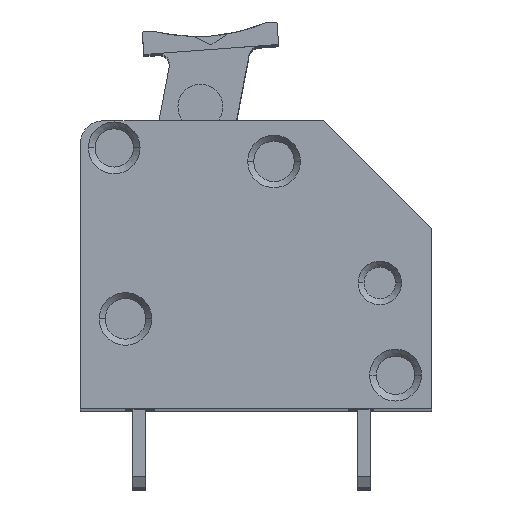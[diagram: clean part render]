
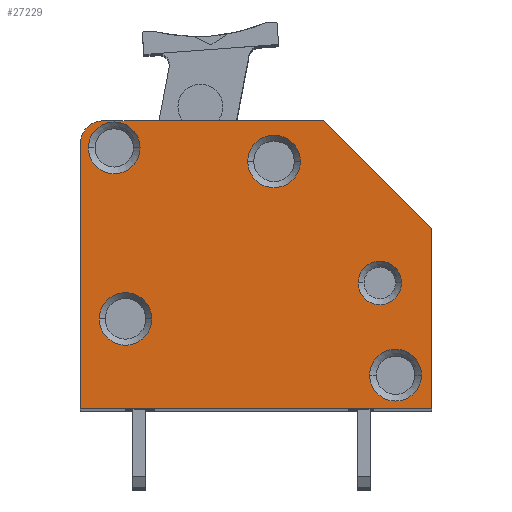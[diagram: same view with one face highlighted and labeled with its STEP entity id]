
A CAD part, top view. The second image highlights one B-rep face of the part: STEP entity #27229.
In plain terms, the highlighted planar face has unit normal (0, 0, 1).
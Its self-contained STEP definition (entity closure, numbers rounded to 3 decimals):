
#11732 = DIRECTION ( 'NONE',  ( 1., 0., 0. ) ) ;
#11733 = DIRECTION ( 'NONE',  ( 0., 0., -1. ) ) ;
#11734 = CARTESIAN_POINT ( 'NONE',  ( -6.01, -0.923, 0. ) ) ;
#11735 = AXIS2_PLACEMENT_3D ( 'NONE', #11734, #11733, #11732 ) ;
#11736 = CIRCLE ( 'NONE', #11735, 1.168 ) ;
#11798 = DIRECTION ( 'NONE',  ( 1., 0., 0. ) ) ;
#11799 = DIRECTION ( 'NONE',  ( 0., 0., -1. ) ) ;
#11800 = CARTESIAN_POINT ( 'NONE',  ( 0.59, 6.077, 0. ) ) ;
#11801 = AXIS2_PLACEMENT_3D ( 'NONE', #11800, #11799, #11798 ) ;
#11802 = CIRCLE ( 'NONE', #11801, 1.168 ) ;
#11853 = DIRECTION ( 'NONE',  ( 1., 0., 0. ) ) ;
#11854 = DIRECTION ( 'NONE',  ( 0., 0., -1. ) ) ;
#11855 = CARTESIAN_POINT ( 'NONE',  ( 5.29, 0.677, 0. ) ) ;
#11856 = AXIS2_PLACEMENT_3D ( 'NONE', #11855, #11854, #11853 ) ;
#11857 = CIRCLE ( 'NONE', #11856, 0.968 ) ;
#11870 = DIRECTION ( 'NONE',  ( 1., 0., 0. ) ) ;
#11871 = DIRECTION ( 'NONE',  ( 0., 0., -1. ) ) ;
#11872 = AXIS2_PLACEMENT_3D ( 'NONE', #11878, #11871, #11870 ) ;
#11873 = CIRCLE ( 'NONE', #11872, 1.15 ) ;
#11878 = CARTESIAN_POINT ( 'NONE',  ( 5.99, -3.423, 0. ) ) ;
#11897 = DIRECTION ( 'NONE',  ( 1., 0., 0. ) ) ;
#11898 = DIRECTION ( 'NONE',  ( 0., 0., -1. ) ) ;
#11899 = CARTESIAN_POINT ( 'NONE',  ( -6.51, 6.677, 0. ) ) ;
#11900 = AXIS2_PLACEMENT_3D ( 'NONE', #11899, #11898, #11897 ) ;
#11901 = CIRCLE ( 'NONE', #11900, 1.15 ) ;
#14247 = CARTESIAN_POINT ( 'NONE',  ( -8.01, 6.877, 0. ) ) ;
#14248 = CARTESIAN_POINT ( 'NONE',  ( -7.01, 7.877, 0. ) ) ;
#14249 = DIRECTION ( 'NONE',  ( 1., 0., 0. ) ) ;
#14250 = DIRECTION ( 'NONE',  ( 0., 0., 1. ) ) ;
#14251 = AXIS2_PLACEMENT_3D ( 'NONE', #14257, #14250, #14249 ) ;
#14252 = CIRCLE ( 'NONE', #14251, 1. ) ;
#14257 = CARTESIAN_POINT ( 'NONE',  ( -7.01, 6.877, 0. ) ) ;
#14929 = DIRECTION ( 'NONE',  ( 1., 0., 0. ) ) ;
#14930 = DIRECTION ( 'NONE',  ( 0., 0., 1. ) ) ;
#14931 = CARTESIAN_POINT ( 'NONE',  ( -8.01, -4.923, 0. ) ) ;
#14932 = AXIS2_PLACEMENT_3D ( 'NONE', #14931, #14930, #14929 ) ;
#14933 = PLANE ( 'NONE',  #14932 ) ;
#14934 = FACE_OUTER_BOUND ( 'NONE', #27306, .T. ) ;
#14935 = FACE_BOUND ( 'NONE', #27304, .T. ) ;
#14936 = FACE_BOUND ( 'NONE', #27301, .T. ) ;
#14937 = FACE_BOUND ( 'NONE', #27298, .T. ) ;
#14938 = FACE_BOUND ( 'NONE', #27232, .T. ) ;
#14939 = FACE_BOUND ( 'NONE', #27230, .T. ) ;
#15023 = DIRECTION ( 'NONE',  ( -1., 0., 0. ) ) ;
#15024 = VECTOR ( 'NONE', #15023, 1000. ) ;
#15025 = CARTESIAN_POINT ( 'NONE',  ( -2.11, 7.877, 0. ) ) ;
#15026 = LINE ( 'NONE', #15025, #15024 ) ;
#15027 = CARTESIAN_POINT ( 'NONE',  ( 2.79, 7.877, 0. ) ) ;
#15028 = DIRECTION ( 'NONE',  ( -0.707, 0.707, 0. ) ) ;
#15029 = VECTOR ( 'NONE', #15028, 1000. ) ;
#15030 = CARTESIAN_POINT ( 'NONE',  ( 5.19, 5.477, 0. ) ) ;
#15031 = LINE ( 'NONE', #15030, #15029 ) ;
#15032 = CARTESIAN_POINT ( 'NONE',  ( 7.59, 3.077, 0. ) ) ;
#15033 = DIRECTION ( 'NONE',  ( 0., 1., 0. ) ) ;
#15034 = VECTOR ( 'NONE', #15033, 1000. ) ;
#15035 = CARTESIAN_POINT ( 'NONE',  ( 7.59, -0.923, 0. ) ) ;
#15036 = LINE ( 'NONE', #15035, #15034 ) ;
#15037 = CARTESIAN_POINT ( 'NONE',  ( 7.59, -4.923, 0. ) ) ;
#15038 = DIRECTION ( 'NONE',  ( 1., 0., 0. ) ) ;
#15039 = VECTOR ( 'NONE', #15038, 1000. ) ;
#15040 = CARTESIAN_POINT ( 'NONE',  ( -8.01, -4.923, 0. ) ) ;
#15041 = LINE ( 'NONE', #15040, #15039 ) ;
#15042 = CARTESIAN_POINT ( 'NONE',  ( -8.01, -4.923, 0. ) ) ;
#15043 = DIRECTION ( 'NONE',  ( 0., -1., 0. ) ) ;
#15044 = VECTOR ( 'NONE', #15043, 1000. ) ;
#15045 = CARTESIAN_POINT ( 'NONE',  ( -8.01, 0.977, 0. ) ) ;
#15046 = LINE ( 'NONE', #15045, #15044 ) ;
#15721 = CARTESIAN_POINT ( 'NONE',  ( 1.759, 6.077, 0. ) ) ;
#15722 = DIRECTION ( 'NONE',  ( 1., 0., 0. ) ) ;
#15723 = DIRECTION ( 'NONE',  ( 0., 0., -1. ) ) ;
#15724 = CARTESIAN_POINT ( 'NONE',  ( 0.59, 6.077, 0. ) ) ;
#15725 = AXIS2_PLACEMENT_3D ( 'NONE', #15724, #15723, #15722 ) ;
#15726 = CIRCLE ( 'NONE', #15725, 1.168 ) ;
#15727 = DIRECTION ( 'NONE',  ( 1., 0., 0. ) ) ;
#15728 = DIRECTION ( 'NONE',  ( 0., 0., -1. ) ) ;
#15729 = CARTESIAN_POINT ( 'NONE',  ( 5.99, -3.423, 0. ) ) ;
#15730 = AXIS2_PLACEMENT_3D ( 'NONE', #15729, #15728, #15727 ) ;
#15731 = CIRCLE ( 'NONE', #15730, 1.15 ) ;
#15732 = CARTESIAN_POINT ( 'NONE',  ( 4.84, -3.423, 0. ) ) ;
#15734 = CARTESIAN_POINT ( 'NONE',  ( -0.578, 6.077, 0. ) ) ;
#15761 = CARTESIAN_POINT ( 'NONE',  ( 6.258, 0.677, 0. ) ) ;
#15762 = CARTESIAN_POINT ( 'NONE',  ( 4.323, 0.677, 0. ) ) ;
#15809 = CARTESIAN_POINT ( 'NONE',  ( 7.14, -3.423, 0. ) ) ;
#15850 = DIRECTION ( 'NONE',  ( 1., 0., 0. ) ) ;
#15851 = DIRECTION ( 'NONE',  ( 0., 0., -1. ) ) ;
#15852 = CARTESIAN_POINT ( 'NONE',  ( 5.29, 0.677, 0. ) ) ;
#15853 = AXIS2_PLACEMENT_3D ( 'NONE', #15852, #15851, #15850 ) ;
#15854 = CIRCLE ( 'NONE', #15853, 0.968 ) ;
#17433 = EDGE_CURVE ( 'NONE', #17556, #18848, #29064, .T. ) ;
#17556 = VERTEX_POINT ( 'NONE', #29312 ) ;
#17623 = VERTEX_POINT ( 'NONE', #29457 ) ;
#17625 = VERTEX_POINT ( 'NONE', #29455 ) ;
#17629 = EDGE_CURVE ( 'NONE', #17623, #17625, #29450, .T. ) ;
#18848 = VERTEX_POINT ( 'NONE', #31573 ) ;
#25231 = EDGE_CURVE ( 'NONE', #17625, #17623, #11736, .T. ) ;
#25277 = EDGE_CURVE ( 'NONE', #28004, #27978, #11802, .T. ) ;
#25295 = EDGE_CURVE ( 'NONE', #27974, #28036, #11873, .T. ) ;
#25304 = EDGE_CURVE ( 'NONE', #27989, #27991, #11857, .T. ) ;
#25310 = EDGE_CURVE ( 'NONE', #18848, #17556, #11901, .T. ) ;
#26712 = EDGE_CURVE ( 'NONE', #26713, #26714, #14252, .T. ) ;
#26713 = VERTEX_POINT ( 'NONE', #14248 ) ;
#26714 = VERTEX_POINT ( 'NONE', #14247 ) ;
#27229 = ADVANCED_FACE ( 'NONE', ( #14939, #14938, #14937, #14936, #14935, #14934 ), #14933, .T. ) ;
#27230 = EDGE_LOOP ( 'NONE', ( #27231, #27295 ) ) ;
#27231 = ORIENTED_EDGE ( 'NONE', *, *, #27977, .T. ) ;
#27232 = EDGE_LOOP ( 'NONE', ( #27296, #27297 ) ) ;
#27280 = ORIENTED_EDGE ( 'NONE', *, *, #25310, .T. ) ;
#27281 = ORIENTED_EDGE ( 'NONE', *, *, #27282, .T. ) ;
#27282 = EDGE_CURVE ( 'NONE', #26714, #27283, #15046, .T. ) ;
#27283 = VERTEX_POINT ( 'NONE', #15042 ) ;
#27284 = ORIENTED_EDGE ( 'NONE', *, *, #27285, .T. ) ;
#27285 = EDGE_CURVE ( 'NONE', #27283, #27286, #15041, .T. ) ;
#27286 = VERTEX_POINT ( 'NONE', #15037 ) ;
#27287 = ORIENTED_EDGE ( 'NONE', *, *, #27288, .T. ) ;
#27288 = EDGE_CURVE ( 'NONE', #27286, #27289, #15036, .T. ) ;
#27289 = VERTEX_POINT ( 'NONE', #15032 ) ;
#27290 = ORIENTED_EDGE ( 'NONE', *, *, #27291, .T. ) ;
#27291 = EDGE_CURVE ( 'NONE', #27289, #27292, #15031, .T. ) ;
#27292 = VERTEX_POINT ( 'NONE', #15027 ) ;
#27293 = ORIENTED_EDGE ( 'NONE', *, *, #27294, .T. ) ;
#27294 = EDGE_CURVE ( 'NONE', #27292, #26713, #15026, .T. ) ;
#27295 = ORIENTED_EDGE ( 'NONE', *, *, #25277, .T. ) ;
#27296 = ORIENTED_EDGE ( 'NONE', *, *, #28044, .T. ) ;
#27297 = ORIENTED_EDGE ( 'NONE', *, *, #25304, .T. ) ;
#27298 = EDGE_LOOP ( 'NONE', ( #27299, #27300 ) ) ;
#27299 = ORIENTED_EDGE ( 'NONE', *, *, #27976, .T. ) ;
#27300 = ORIENTED_EDGE ( 'NONE', *, *, #25295, .T. ) ;
#27301 = EDGE_LOOP ( 'NONE', ( #27302, #27303 ) ) ;
#27302 = ORIENTED_EDGE ( 'NONE', *, *, #17629, .T. ) ;
#27303 = ORIENTED_EDGE ( 'NONE', *, *, #25231, .T. ) ;
#27304 = EDGE_LOOP ( 'NONE', ( #27305, #27280 ) ) ;
#27305 = ORIENTED_EDGE ( 'NONE', *, *, #17433, .T. ) ;
#27306 = EDGE_LOOP ( 'NONE', ( #27281, #27284, #27287, #27290, #27293, #27350 ) ) ;
#27350 = ORIENTED_EDGE ( 'NONE', *, *, #26712, .T. ) ;
#27974 = VERTEX_POINT ( 'NONE', #15732 ) ;
#27976 = EDGE_CURVE ( 'NONE', #28036, #27974, #15731, .T. ) ;
#27977 = EDGE_CURVE ( 'NONE', #27978, #28004, #15726, .T. ) ;
#27978 = VERTEX_POINT ( 'NONE', #15721 ) ;
#27989 = VERTEX_POINT ( 'NONE', #15762 ) ;
#27991 = VERTEX_POINT ( 'NONE', #15761 ) ;
#28004 = VERTEX_POINT ( 'NONE', #15734 ) ;
#28036 = VERTEX_POINT ( 'NONE', #15809 ) ;
#28044 = EDGE_CURVE ( 'NONE', #27991, #27989, #15854, .T. ) ;
#29062 = CARTESIAN_POINT ( 'NONE',  ( -6.51, 6.677, 0. ) ) ;
#29063 = AXIS2_PLACEMENT_3D ( 'NONE', #29062, #29123, #29122 ) ;
#29064 = CIRCLE ( 'NONE', #29063, 1.15 ) ;
#29122 = DIRECTION ( 'NONE',  ( 1., 0., 0. ) ) ;
#29123 = DIRECTION ( 'NONE',  ( 0., 0., -1. ) ) ;
#29312 = CARTESIAN_POINT ( 'NONE',  ( -5.36, 6.677, 0. ) ) ;
#29446 = DIRECTION ( 'NONE',  ( 1., 0., 0. ) ) ;
#29447 = DIRECTION ( 'NONE',  ( 0., 0., -1. ) ) ;
#29448 = CARTESIAN_POINT ( 'NONE',  ( -6.01, -0.923, 0. ) ) ;
#29449 = AXIS2_PLACEMENT_3D ( 'NONE', #29448, #29447, #29446 ) ;
#29450 = CIRCLE ( 'NONE', #29449, 1.168 ) ;
#29455 = CARTESIAN_POINT ( 'NONE',  ( -7.178, -0.923, 0. ) ) ;
#29457 = CARTESIAN_POINT ( 'NONE',  ( -4.841, -0.923, 0. ) ) ;
#31573 = CARTESIAN_POINT ( 'NONE',  ( -7.66, 6.677, 0. ) ) ;
